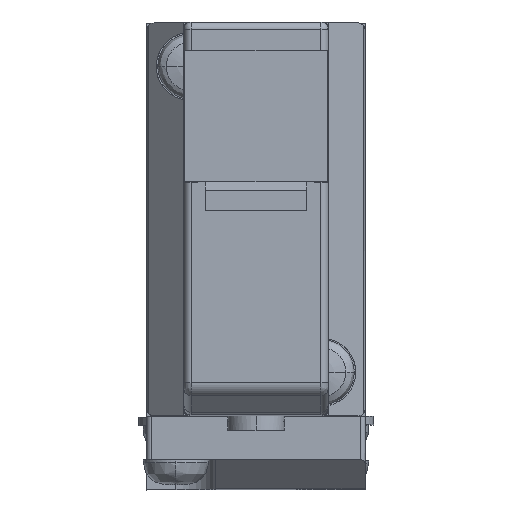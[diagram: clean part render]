
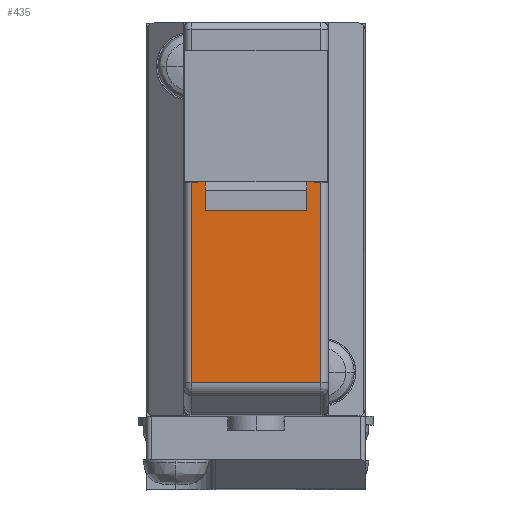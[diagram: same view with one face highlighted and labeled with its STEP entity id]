
A CAD part, top view. The second image highlights one B-rep face of the part: STEP entity #435.
In plain terms, the highlighted planar face has unit normal (0, 0, 1).
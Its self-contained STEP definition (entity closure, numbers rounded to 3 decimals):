
#435=ADVANCED_FACE('',(#2316),#2315,.F.);
#2315=PLANE('',#4693);
#2316=FACE_OUTER_BOUND('',#4694,.T.);
#4690=CARTESIAN_POINT('',(5.34,-26.283,27.4));
#4691=DIRECTION('',(0.,0.,-1.));
#4692=DIRECTION('',(-1.,0.,0.));
#4693=AXIS2_PLACEMENT_3D('',#4690,#4691,#4692);
#4694=EDGE_LOOP('',(#6260,#6261,#6262,#6263,#6264,#6265,#6266,#6267));
#6260=ORIENTED_EDGE('',*,*,#7332,.F.);
#6261=ORIENTED_EDGE('',*,*,#7339,.T.);
#6262=ORIENTED_EDGE('',*,*,#7340,.T.);
#6263=ORIENTED_EDGE('',*,*,#7341,.T.);
#6264=ORIENTED_EDGE('',*,*,#7324,.F.);
#6265=ORIENTED_EDGE('',*,*,#7260,.F.);
#6266=ORIENTED_EDGE('',*,*,#7269,.F.);
#6267=ORIENTED_EDGE('',*,*,#7262,.T.);
#7260=EDGE_CURVE('',#10129,#10114,#10136,.T.);
#7262=EDGE_CURVE('',#10150,#10143,#10151,.T.);
#7269=EDGE_CURVE('',#10150,#10129,#10196,.T.);
#7324=EDGE_CURVE('',#10114,#10566,#10567,.T.);
#7332=EDGE_CURVE('',#10613,#10143,#10620,.T.);
#7339=EDGE_CURVE('',#10613,#10666,#10667,.T.);
#7340=EDGE_CURVE('',#10666,#10673,#10674,.T.);
#7341=EDGE_CURVE('',#10673,#10566,#10680,.T.);
#10114=VERTEX_POINT('',#14020);
#10129=VERTEX_POINT('',#14029);
#10136=LINE('',#14033,#14034);
#10143=VERTEX_POINT('',#14037);
#10150=VERTEX_POINT('',#14041);
#10151=LINE('',#14042,#14043);
#10196=LINE('',#14066,#14067);
#10566=VERTEX_POINT('',#14275);
#10567=LINE('',#14276,#14277);
#10613=VERTEX_POINT('',#14302);
#10620=LINE('',#14307,#14308);
#10666=VERTEX_POINT('',#14332);
#10667=LINE('',#14333,#14334);
#10673=VERTEX_POINT('',#14336);
#10674=LINE('',#14337,#14338);
#10680=LINE('',#14340,#14341);
#14020=CARTESIAN_POINT('',(4.,-11.,27.4));
#14029=CARTESIAN_POINT('',(4.,-9.5,27.4));
#14033=CARTESIAN_POINT('',(4.,-9.5,27.4));
#14034=VECTOR('',#14035,1.5);
#14035=DIRECTION('',(0.,-1.,0.));
#14037=CARTESIAN_POINT('',(-4.,-11.,27.4));
#14041=CARTESIAN_POINT('',(-4.,-9.5,27.4));
#14042=CARTESIAN_POINT('',(-4.,-9.5,27.4));
#14043=VECTOR('',#14044,1.5);
#14044=DIRECTION('',(0.,-1.,0.));
#14066=CARTESIAN_POINT('',(-4.,-9.5,27.4));
#14067=VECTOR('',#14068,8.);
#14068=DIRECTION('',(1.,0.,0.));
#14275=CARTESIAN_POINT('',(4.45,-11.,27.4));
#14276=CARTESIAN_POINT('',(4.,-11.,27.4));
#14277=VECTOR('',#14278,0.45);
#14278=DIRECTION('',(1.,0.,0.));
#14302=CARTESIAN_POINT('',(-4.45,-11.,27.4));
#14307=CARTESIAN_POINT('',(-4.45,-11.,27.4));
#14308=VECTOR('',#14309,0.45);
#14309=DIRECTION('',(1.,0.,0.));
#14332=CARTESIAN_POINT('',(-4.45,-24.758,27.4));
#14333=CARTESIAN_POINT('',(-4.45,-11.,27.4));
#14334=VECTOR('',#14335,13.758);
#14335=DIRECTION('',(0.,-1.,0.));
#14336=CARTESIAN_POINT('',(4.45,-24.758,27.4));
#14337=CARTESIAN_POINT('',(-4.45,-24.758,27.4));
#14338=VECTOR('',#14339,8.9);
#14339=DIRECTION('',(1.,0.,0.));
#14340=CARTESIAN_POINT('',(4.45,-24.758,27.4));
#14341=VECTOR('',#14342,13.758);
#14342=DIRECTION('',(0.,1.,0.));
